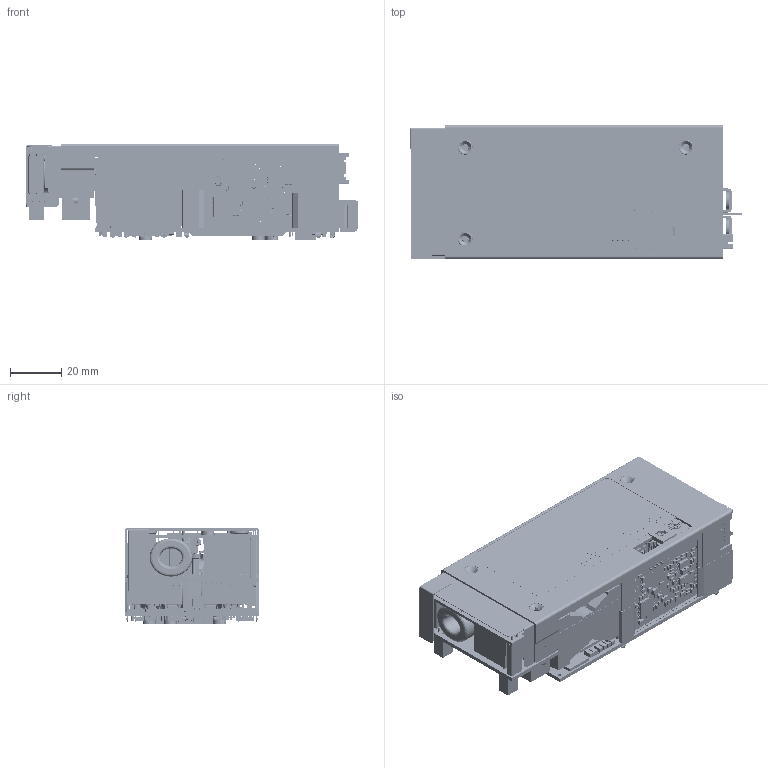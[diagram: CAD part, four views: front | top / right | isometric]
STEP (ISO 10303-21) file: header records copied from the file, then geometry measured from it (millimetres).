
FILE_DESCRIPTION((''),'2;1');
FILE_NAME('73-963-0048_UMP1K_ASM','2015-03-23T',('RomanoAngeloIniego'),(''),'CREO PARAMETRIC BY PTC INC, 2014440','CREO PARAMETRIC BY PTC INC, 2014440','');
FILE_SCHEMA(('CONFIG_CONTROL_DESIGN'));
Products named in the file (140): 509-006660-0003; 801-006213-0002-MM; 801-006214-0003-MM; R-0603-SW; R-LRF3W-SR; 801-006217-0000-SR; R-2512-SW; HDR02V-2008S0200-MM; C-1206-SR; C-1206-018-SW; R-1206-SW; SOD323-SW; C-1206-SW; R-1206-SR; C-1206-018-SR; SOT23-5L-SR; C-0603-SR; R-0805-SR; SOT23-SR; R-0603-SR; TO220-3L-280-DS-03-MR_AF0; CMLC-075040140050-0508-01-M_AF0; CMLC-075040140050-0508-01-M_AF1; CMLC-075040140050-0508-01-M_AF2; CMLC-075040140050-0508-01-M_AF3; CE-105220060-0508-01-MR_AF0; CE-105220060-0508-01-MR_AF1; 801-006215-0001-MM; 502-000181-000X_BBAR_PART; 500-004123-000X_BUSBAR-OUTPUT-N; CLS-M3_5-0; 500-004123-000X_BUSBAR-OUTPUT-N_ASM; 500-004124-000X_BUSBAR-OUTPUT-P; CLS-M3_5-0_; 500-004124-000X_BUSBAR-OUTPUT-P_ASM; UMP_OUTPUT_BBAR_ASSY_ASM; 73-963-0048_T0_HOLDER; 841-000378_DTAPE; 509-006660-0003_AF0_ASM; 466-002154-000X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
Assembly tree (474 placements, depth 6):
  73-963-0048_UMP1K_ASM
    73-963-0048_MAIN_BOARD_ASSY_ASM
      509-006660-0003_AF0_ASM
        509-006660-0003
        801-006213-0002-MM
        801-006214-0003-MM
        R-0603-SW
        R-LRF3W-SR  x2
        801-006217-0000-SR  x6
        R-2512-SW
        HDR02V-2008S0200-MM
        C-1206-SR
        C-1206-018-SW  x18
        R-1206-SW  x8
        SOD323-SW  x5
        C-1206-SW
        R-1206-SR
        C-1206-018-SR  x31
        SOT23-5L-SR
        C-0603-SR  x3
        R-0805-SR  x6
        SOT23-SR  x2
        R-0603-SR  x3
        TO220-3L-280-DS-03-MR_AF0
        CMLC-075040140050-0508-01-M_AF0
        CMLC-075040140050-0508-01-M_AF1
        CMLC-075040140050-0508-01-M_AF2
        CMLC-075040140050-0508-01-M_AF3
        CE-105220060-0508-01-MR_AF0
        CE-105220060-0508-01-MR_AF1
        801-006215-0001-MM  x3
        UMP_OUTPUT_BBAR_ASSY_ASM
          502-000181-000X_BBAR_PART
          500-004123-000X_BUSBAR-OUTPUT-N_ASM
            500-004123-000X_BUSBAR-OUTPUT-N
            CLS-M3_5-0
          500-004124-000X_BUSBAR-OUTPUT-P_ASM
            500-004124-000X_BUSBAR-OUTPUT-P
            CLS-M3_5-0_
        73-963-0048_T0_HOLDER
        841-000378_DTAPE  x3
      73-963-0048_CU_HTSK_ASSY_AF0_ASM
        466-002154-000X
        622-001240-0000-LMS-COPPERHTSK
        TO2202L-160-256-01-MR_AF0
        TO2202L-160-256-01-MR_AF1
        TH-035030080050-0254-01-SQ-MR
        TF_TUBE_760_002234_0002  x2
        LEADS_AF0
        LEADS_AF1
        GREEN_GLUE
      73-963-0048_AL_HTSK_ASSY_ASM
        466-002153-0001_ASM  x3
          HTSK_002153-01-1000W
          500-004535-0000_PIN_DIA1
          622-001239-000X-INSULATOR-EXTRU
          509-006662-0002_3_ASM
            509-006662-0002_3
            R-1210-SR
            R-1206-SR
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Bounding box: 130.05 x 52.62 x 37.94 mm (x, y, z)
Volume: 67235.4 mm3; surface area: 158823.5 mm2
Topology: 522 solids, 526 shells, 26247 faces, 70847 edges, 45775 vertices
Faces by surface type: plane 20341, cylinder 5319, bspline 268, torus 104, sphere 88, cone 71, extrusion 56
Entity records: 400599 total; most frequent: CARTESIAN_POINT 63383, DIRECTION 54027, ORIENTED_EDGE 53558, EDGE_CURVE 26785, PRESENTATION_STYLE_ASSIGNMENT 22172, STYLED_ITEM 21681, CURVE_STYLE 20505, VECTOR 19951
